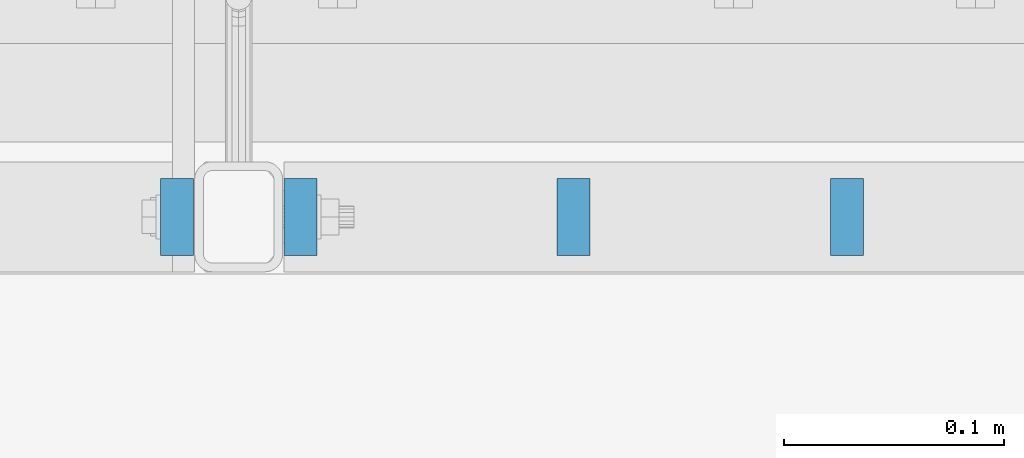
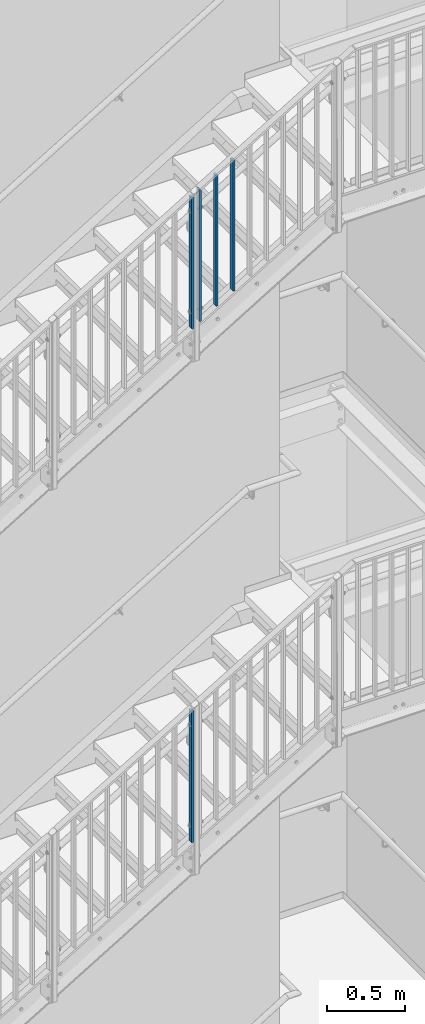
# One storey, part 15 of 410: 5 columns, 6 openings.
"""IFC2X3 building model written with IfcOpenShell, lengths in millimetres."""

from ifc_helpers import new_model, entity, si_unit, converted_unit, frame, frame_2d, origin, origin_with_axes, origin_2d, place, context, project, spatial, rectangle, circle, extrude, material, element, save


model = new_model("IFC2X3")

# Units and contexts
model_context = context("Model", 3, precision=1e-09, world=origin_with_axes())
ifc_project = project(units=[si_unit("LENGTHUNIT", "METRE", prefix="MILLI"), si_unit("AREAUNIT", "SQUARE_METRE"), si_unit("VOLUMEUNIT", "CUBIC_METRE"), converted_unit("PLANEANGLEUNIT", "DEGREE", entity("IfcPlaneAngleMeasure", 0.01745329), si_unit("PLANEANGLEUNIT", "RADIAN"), dimensions=[0, 0, 0, 0, 0, 0, 0])], contexts=[model_context])

# Site, building, storey
site_placement = place(None, origin_with_axes())
site = spatial("IfcSite", under=ifc_project, at=site_placement, Name="mKR Teilneubau & Sanierung BA1 - Ostfildern", CompositionType="ELEMENT")
building_placement = place(site_placement, origin_with_axes())
building = spatial("IfcBuilding", under=site, at=building_placement, Name="Struktur 1", CompositionType="ELEMENT")
storey_placement = place(building_placement, origin_with_axes())
storey = spatial("IfcBuildingStorey", under=building, at=storey_placement, Name="Default Storey", CompositionType="ELEMENT", Elevation=0.0)

# Column, openings
ifc_material = material(Name="S235JR")
column_1_placement = place(None, frame((343.001468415, 15405.999999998, 5292.947388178), z_axis=(0.0, 0.0, -1.0), x_axis=(1.0, 0.0, 0.0)))
column_1 = element("IfcColumn", 1, at=column_1_placement, inside=storey, material=ifc_material, Name="-", ObjectType="-", context=model_context, shape_type="SweptSolid", body=[
    extrude(rectangle(XDim=15.0, YDim=35.0, at=origin_2d()), origin(), (0.0, 0.0, -1.0), 1025.546889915),
])
opening_1_placement = place(column_1_placement, frame((8.0, -6.001, -87.246971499), z_axis=(1.0, 0.0, 0.0), x_axis=(0.0, 1.0, 0.0)))
element("IfcOpeningElement", 2, at=opening_1_placement, cuts=column_1, ObjectType="Opening", context=model_context, shape_type="SweptSolid", body=[
    extrude(circle(Radius=6.001, at=frame_2d((6.001, 0.0), x_axis=(1.0, 0.0))), origin(), (0.0, 0.0, -1.0), 16.0),
])
opening_2_placement = place(column_1_placement, frame((8.0, -6.001, -872.246971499), z_axis=(1.0, 0.0, 0.0), x_axis=(0.0, 1.0, 0.0)))
element("IfcOpeningElement", 3, at=opening_2_placement, cuts=column_1, ObjectType="Opening", context=model_context, shape_type="SweptSolid", body=[
    extrude(circle(Radius=6.001, at=frame_2d((6.001, 0.0), x_axis=(1.0, 0.0))), origin(), (0.0, 0.0, -1.0), 16.0),
])

# Columns
for number, where, z_axis, x_axis in (
    (4, (467.251468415, 15405.999999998, 6388.796017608), (0.0, 0.0, 1.0), (-1.0, 0.0, 0.0)),
    (5, (591.501468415, 15405.999999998, 6463.774465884), (0.0, 0.0, 1.0), (-1.0, 0.0, 0.0)),
):
    element("IfcColumn", number, at=place(None, frame(where, z_axis=z_axis, x_axis=x_axis)), inside=storey, material=ifc_material, Name="-", ObjectType="-", context=model_context, shape_type="SweptSolid", body=[
        extrude(rectangle(XDim=15.0, YDim=35.0, at=origin_2d()), origin(), (0.0, 0.0, -1.0), 1020.870181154),
    ])

# Column, openings
column_2_placement = place(None, frame((287.001468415, 15405.999999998, 6280.024465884), z_axis=(0.0, 0.0, 1.0), x_axis=(-1.0, 0.0, 0.0)))
column_2 = element("IfcColumn", 6, at=column_2_placement, inside=storey, material=ifc_material, Name="-", ObjectType="-", context=model_context, shape_type="SweptSolid", body=[
    extrude(rectangle(XDim=15.0, YDim=35.0, at=origin_2d()), origin(), (0.0, 0.0, -1.0), 1025.546889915),
])
opening_3_placement = place(column_2_placement, frame((-8.0, -6.001, -899.830106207), z_axis=(-1.0, 0.0, 0.0), x_axis=(0.0, -1.0, 0.0)))
element("IfcOpeningElement", 7, at=opening_3_placement, cuts=column_2, ObjectType="Opening", context=model_context, shape_type="SweptSolid", body=[
    extrude(circle(Radius=6.001, at=frame_2d((-6.001, 0.0), x_axis=(1.0, 0.0))), origin(), (0.0, 0.0, -1.0), 16.0),
])
opening_4_placement = place(column_2_placement, frame((-8.0, -6.001, -114.830106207), z_axis=(-1.0, 0.0, 0.0), x_axis=(0.0, -1.0, 0.0)))
element("IfcOpeningElement", 8, at=opening_4_placement, cuts=column_2, ObjectType="Opening", context=model_context, shape_type="SweptSolid", body=[
    extrude(circle(Radius=6.001, at=frame_2d((-6.001, 0.0), x_axis=(1.0, 0.0))), origin(), (0.0, 0.0, -1.0), 16.0),
])

column_3_placement = place(None, frame((287.001468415, 15405.999999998, 2272.615286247), z_axis=(0.0, 0.0, 1.0), x_axis=(-1.0, 0.0, 0.0)))
column_3 = element("IfcColumn", 9, at=column_3_placement, inside=storey, material=ifc_material, Name="-", ObjectType="-", context=model_context, shape_type="SweptSolid", body=[
    extrude(rectangle(XDim=15.0, YDim=35.0, at=origin_2d()), origin(), (0.0, 0.0, -1.0), 1025.668776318),
])
opening_5_placement = place(column_3_placement, frame((-8.0, -6.001, -900.057446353), z_axis=(-1.0, 0.0, 0.0), x_axis=(0.0, -1.0, 0.0)))
element("IfcOpeningElement", 10, at=opening_5_placement, cuts=column_3, ObjectType="Opening", context=model_context, shape_type="SweptSolid", body=[
    extrude(circle(Radius=6.001, at=frame_2d((-6.001, 0.0), x_axis=(1.0, 0.0))), origin(), (0.0, 0.0, -1.0), 16.0),
])
opening_6_placement = place(column_3_placement, frame((-8.0, -6.001, -115.057446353), z_axis=(-1.0, 0.0, 0.0), x_axis=(0.0, -1.0, 0.0)))
element("IfcOpeningElement", 11, at=opening_6_placement, cuts=column_3, ObjectType="Opening", context=model_context, shape_type="SweptSolid", body=[
    extrude(circle(Radius=6.001, at=frame_2d((-6.001, 0.0), x_axis=(1.0, 0.0))), origin(), (0.0, 0.0, -1.0), 16.0),
])

save(model, "model.ifc")
